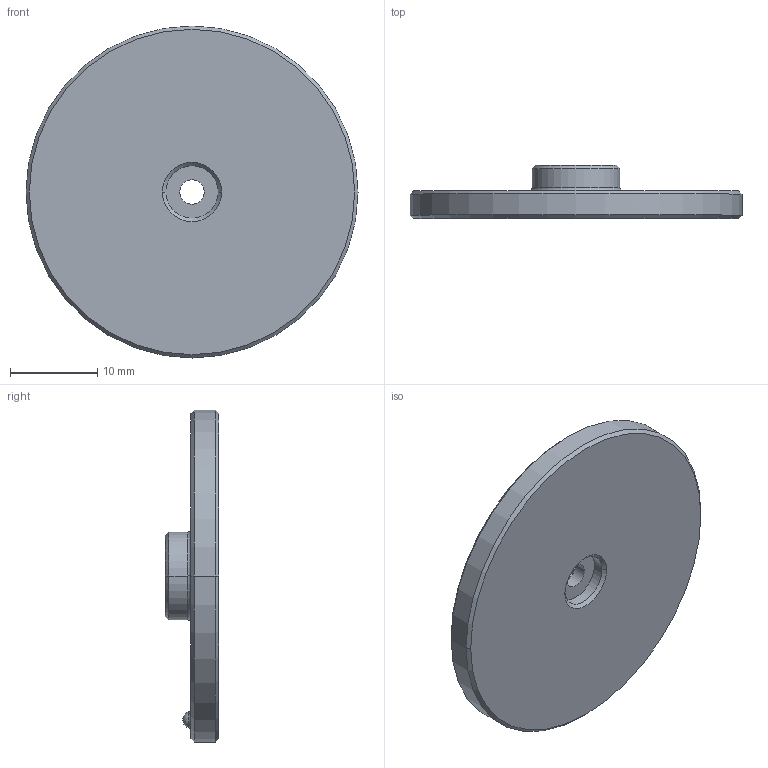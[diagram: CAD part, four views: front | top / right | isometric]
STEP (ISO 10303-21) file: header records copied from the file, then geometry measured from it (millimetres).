
FILE_DESCRIPTION((''),'2;1');
FILE_NAME('SF-1510_001','2016-10-24T',('salvagp'),(''),'CREO PARAMETRIC BY PTC INC, 2016130','CREO PARAMETRIC BY PTC INC, 2016130','');
FILE_SCHEMA(('CONFIG_CONTROL_DESIGN'));
Length unit declared in the file: inch
Products named in the file (1): SF-1510_001
Bounding box: 38.1 x 6.1 x 38.1 mm (x, y, z)
Volume: 3709.7 mm3; surface area: 2781.2 mm2
Topology: 1 solids, 1 shells, 74 faces, 194 edges, 126 vertices
Faces by surface type: plane 53, cone 8, cylinder 8, torus 4, sphere 1
Entity records: 2296 total; most frequent: CARTESIAN_POINT 394, ORIENTED_EDGE 388, DIRECTION 376, EDGE_CURVE 194, VECTOR 160, LINE 160, VERTEX_POINT 126, AXIS2_PLACEMENT_3D 108
